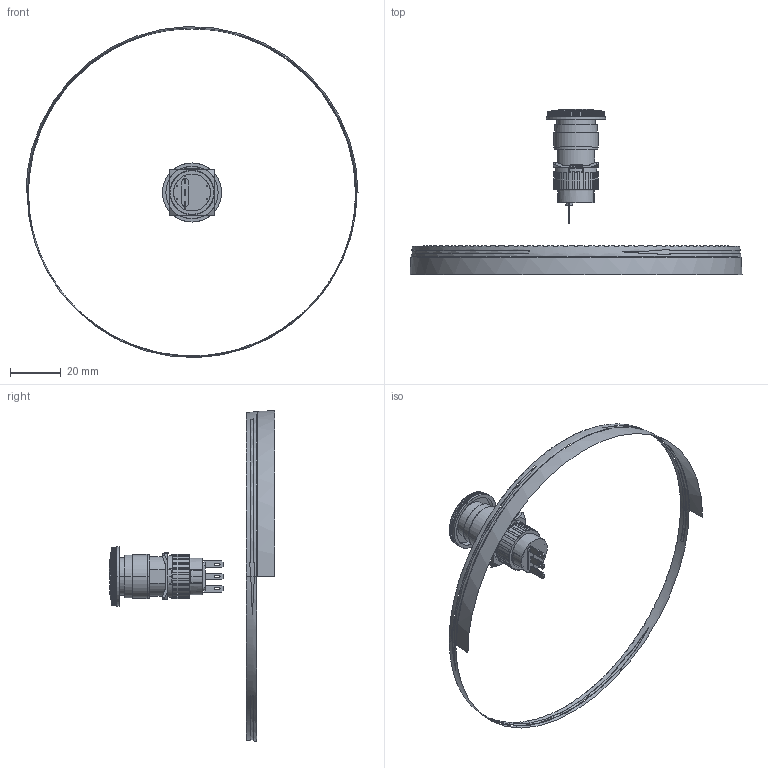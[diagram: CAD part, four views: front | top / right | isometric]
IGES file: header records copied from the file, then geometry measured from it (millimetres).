
Start section: SolidWorks IGES file using analytic representation for surfaces
Global section: file name: D:\X - Arquivos\PROEX\Empresas\P11 - METALTEX\01 - Produtos\IGES\Terceira remessa\Etapa 3\P16-ER.IGS; native system: SolidWorks 2012; preprocessor: SolidWorks 2012; author: Usuario; date: 180215.132241; units: millimetre
Bounding box: 130.96 x 65.48 x 130.51 mm (x, y, z)
Surface area: 7154.7 mm2 (no closed solid volume)
Topology: 0 solids, 0 shells, 609 faces, 5783 edges, 5782 vertices
Faces by surface type: revolution 346, bspline 263
